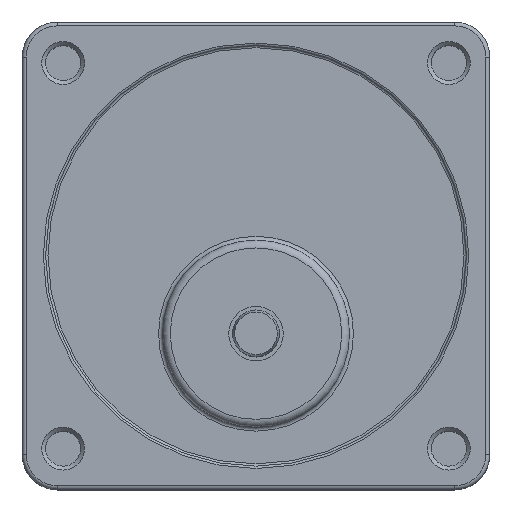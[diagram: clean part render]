
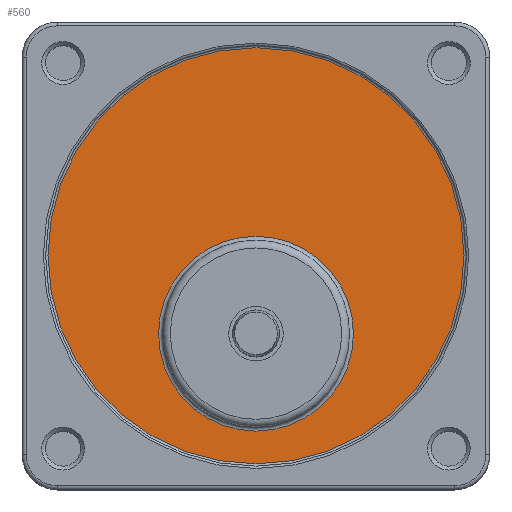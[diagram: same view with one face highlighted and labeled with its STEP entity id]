
A CAD part, top view. The second image highlights one B-rep face of the part: STEP entity #560.
In plain terms, the highlighted planar face has unit normal (0, 0, 1).
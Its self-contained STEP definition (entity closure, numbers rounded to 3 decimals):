
#509=CARTESIAN_POINT('',(42.5,20.0,34.2));
#510=VERTEX_POINT('',#509);
#511=CARTESIAN_POINT('',(30.,20.0,34.2));
#512=DIRECTION('',(0.0,0.0,1.0));
#513=DIRECTION('',(-1.0,0.0,0.0));
#514=AXIS2_PLACEMENT_3D('',#511,#512,#513);
#515=CIRCLE('',#514,12.5);
#516=EDGE_CURVE('',#510,#510,#515,.T.);
#541=CARTESIAN_POINT('',(30.,30.0,34.2));
#542=DIRECTION('',(0.0,0.0,-1.0));
#543=DIRECTION('',(-1.0,0.0,0.0));
#544=AXIS2_PLACEMENT_3D('',#541,#542,#543);
#545=PLANE('',#544);
#546=CARTESIAN_POINT('',(56.699,30.,34.2));
#547=VERTEX_POINT('',#546);
#548=CARTESIAN_POINT('',(30.,30.0,34.2));
#549=DIRECTION('',(0.0,0.0,-1.0));
#550=DIRECTION('',(-1.0,0.0,0.0));
#551=AXIS2_PLACEMENT_3D('',#548,#549,#550);
#552=CIRCLE('',#551,26.699);
#553=EDGE_CURVE('',#547,#547,#552,.T.);
#554=ORIENTED_EDGE('',*,*,#553,.F.);
#555=EDGE_LOOP('',(#554));
#556=FACE_OUTER_BOUND('',#555,.T.);
#557=ORIENTED_EDGE('',*,*,#516,.F.);
#558=EDGE_LOOP('',(#557));
#559=FACE_BOUND('',#558,.T.);
#560=ADVANCED_FACE('',(#556,#559),#545,.F.);
